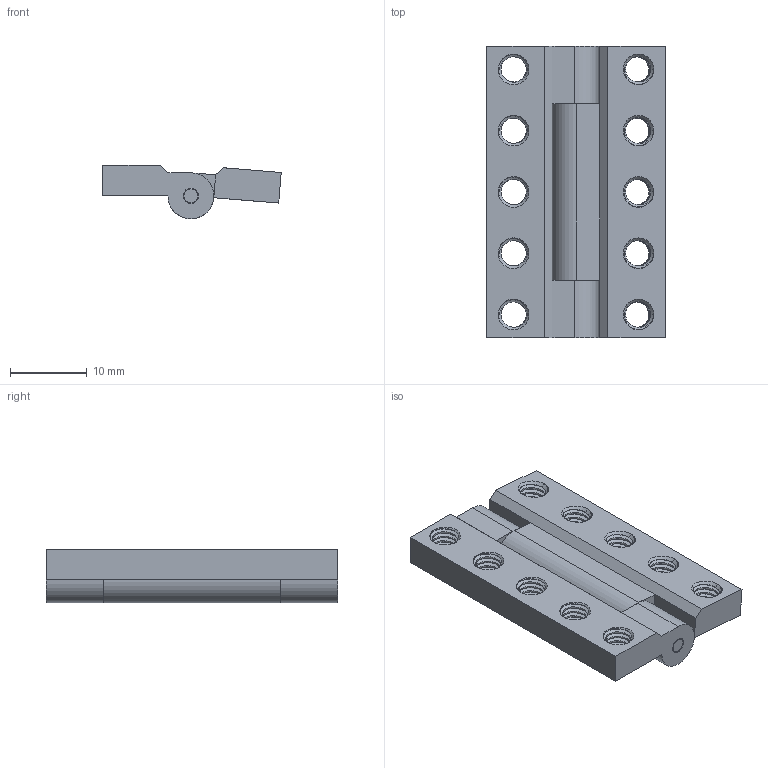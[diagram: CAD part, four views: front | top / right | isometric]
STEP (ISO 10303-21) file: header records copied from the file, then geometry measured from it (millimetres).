
FILE_DESCRIPTION (( 'STEP AP203' ), '1' );
FILE_NAME ('2902-0005-0038 assembly.STEP', '2017-04-05T20:37:16', ( '' ), ( '' ), 'SwSTEP 2.0', 'SolidWorks 2016', '' );
FILE_SCHEMA (( 'CONFIG_CONTROL_DESIGN' ));
Length unit declared in the file: millimetre
Products named in the file (4): 2902-0005-0038 pt 3; 2902-0005-0038 pt 2; 2902-0005-0038 pt 1; 2902-0005-0038 assembly
Assembly tree (3 placements, depth 2):
  2902-0005-0038 assembly
    2902-0005-0038 pt 1
    2902-0005-0038 pt 2
    2902-0005-0038 pt 3
Bounding box: 23.29 x 38 x 7 mm (x, y, z)
Volume: 3280 mm3; surface area: 3638.5 mm2
Topology: 3 solids, 3 shells, 357 faces, 991 edges, 640 vertices
Faces by surface type: cylinder 249, cone 64, plane 24, bspline 20
Entity records: 36107 total; most frequent: CARTESIAN_POINT 27999, ORIENTED_EDGE 1982, DIRECTION 1289, EDGE_CURVE 991, VERTEX_POINT 640, AXIS2_PLACEMENT_3D 485, EDGE_LOOP 383, ADVANCED_FACE 357
